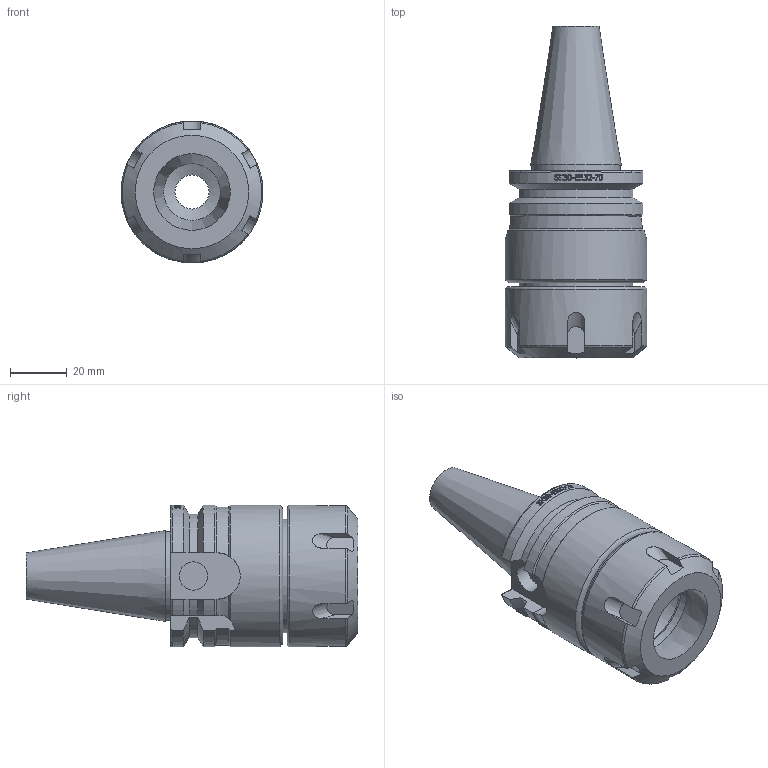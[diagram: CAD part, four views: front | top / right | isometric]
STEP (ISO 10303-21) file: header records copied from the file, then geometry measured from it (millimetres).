
FILE_DESCRIPTION(/* description */ (''),/* implementation_level */ '2;1');
FILE_NAME(/* name */ 'X:\Проектный отдел\Слава\STEP\SK30-ER32-70.stp',/* time_stamp */ '2022-02-09T09:53:22+03:00',/* author */ ('Евгений'),/* organization */ (''),/* preprocessor_version */ 'ST-DEVELOPER v18',/* originating_system */ 'Autodesk Inventor 2020',/* authorisation */ '');
FILE_SCHEMA (('AUTOMOTIVE_DESIGN { 1 0 10303 214 3 1 1 }'));
Length unit declared in the file: millimetre
Products named in the file (1): SK30-ER32-70
Bounding box: 50 x 117 x 50 mm (x, y, z)
Volume: 105113.9 mm3; surface area: 26222.5 mm2
Topology: 1 solids, 1 shells, 290 faces, 818 edges, 551 vertices
Faces by surface type: bspline 111, plane 106, cylinder 44, cone 18, torus 11
Full cylindrical faces by diameter (mm): 10 x1, 12 x1, 12.5 x1, 20 x1, 31.3 x1, 32.5 x1, 40 x1, 50 x2
Entity records: 12647 total; most frequent: CARTESIAN_POINT 5823, ORIENTED_EDGE 1636, DIRECTION 1045, EDGE_CURVE 818, VERTEX_POINT 551, AXIS2_PLACEMENT_3D 351, LINE 343, VECTOR 343
